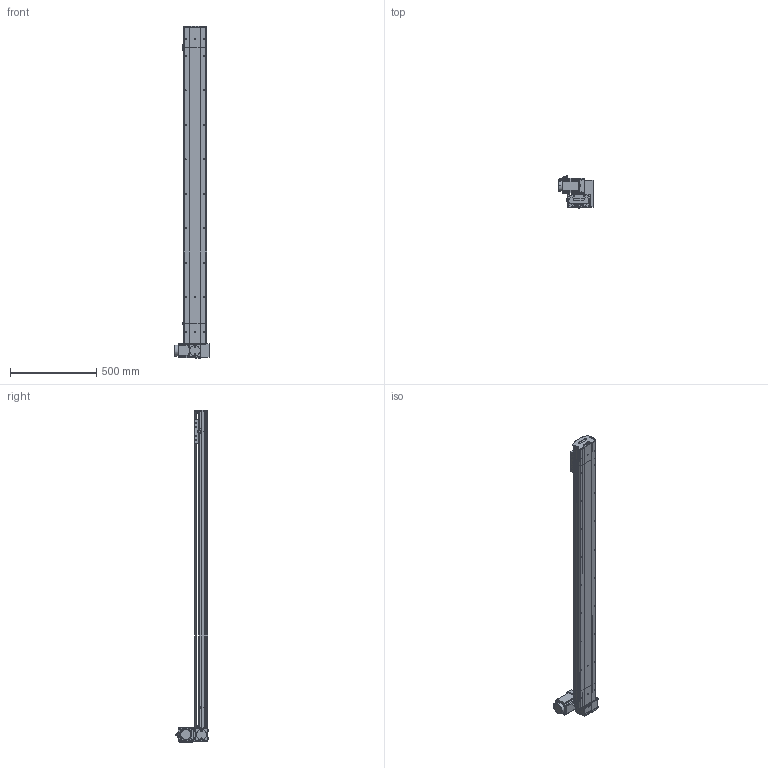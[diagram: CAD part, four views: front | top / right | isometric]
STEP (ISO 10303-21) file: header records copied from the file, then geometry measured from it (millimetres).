
FILE_DESCRIPTION (( 'STEP AP214' ), '1' );
FILE_NAME ('D14 TBH LT S1600.STEP', '2010-06-29T14:05:04', ( 'Conseil Régional Haute-Normandie' ), ( 'Conseil Régional Haute-Normandie' ), 'SwSTEP 2.0', 'SolidWorks 2010', '' );
FILE_SCHEMA (( 'AUTOMOTIVE_DESIGN' ));
Length unit declared in the file: millimetre
Products named in the file (39): Arbre+rail head D14; D14 TB H LT_Default; Vis M5 L16-2_Default; couvercle D14_Default; corp head D14_Default; Arbre+rail tail D14; poulie tail_Default; plaque de  bout head D14 LT_Default; vis M5 L8 90°_Default; Couroie_Default; Moteur motionking 90BLDC100A-640; couroie 2_Default; codeur 90BLDC100-640; Cvis M5 L70_Default; corps 90BLDC100A-640; avant 90BLDC100A-640; Plaque racord D14_Default; couvercle D14 head_Default; Cache arbre_Default; Cache_Default; poulie head_Default; Conecteur2_Default; renvoi LH_Default; Conecteur_Default; vis M5 L5_Default; chariot D14B_Default; Chariot D14; guide D14; vis M5 L12_Default; Tail D14B_Default; D14 TBH LT S1600; D14 couroie L1600_Default; corpl 1600_Default; Rail + couroie D14 Course 1600 ; vis M5 L16_Default; tete d''axe haut D14; couvercle D14 course L1600_Default; plaque de  bout tail D14_Default; corpl tail D14_Default
Assembly tree (68 placements, depth 4):
  D14 TBH LT S1600
    D14 TB H LT_Default
      Vis M5 L16-2_Default  x4
      vis M5 L12_Default  x12
      vis M5 L5_Default  x2
      poulie head_Default
      Plaque racord D14_Default
      plaque de  bout head D14 LT_Default
      Moteur motionking 90BLDC100A-640
        avant 90BLDC100A-640
        Conecteur_Default
        Conecteur2_Default
        codeur 90BLDC100-640
        corps 90BLDC100A-640
      corp head D14_Default
      Cache_Default  x2
      renvoi LH_Default
      Cvis M5 L70_Default  x4
      Cache arbre_Default
      couroie 2_Default
      Arbre+rail head D14
      couvercle D14 head_Default
    D14 couroie L1600_Default
      Rail + couroie D14 Course 1600 
      corpl 1600_Default
      couvercle D14 course L1600_Default
    chariot D14B_Default
      vis M5 L12_Default  x4
      guide D14  x2
      Chariot D14
    Tail D14B_Default
      vis M5 L12_Default  x4
      vis M5 L8 90°_Default  x2
      tete d''axe haut D14
      Arbre+rail tail D14
      plaque de  bout tail D14_Default
      vis M5 L16_Default  x2
      corpl tail D14_Default
      Couroie_Default
      couvercle D14_Default
      poulie tail_Default
Bounding box: 207.2 x 189.1 x 1925.75 mm (x, y, z)
Volume: 7911025.5 mm3; surface area: 2707190 mm2
Topology: 92 solids, 92 shells, 2661 faces, 6503 edges, 4194 vertices
Faces by surface type: plane 1597, cylinder 751, bspline 136, torus 89, cone 84, sphere 4
Entity records: 80108 total; most frequent: CARTESIAN_POINT 23697, ORIENTED_EDGE 9866, DIRECTION 9680, EDGE_CURVE 4933, VECTOR 3298, LINE 3298, VERTEX_POINT 3244, AXIS2_PLACEMENT_3D 3191
